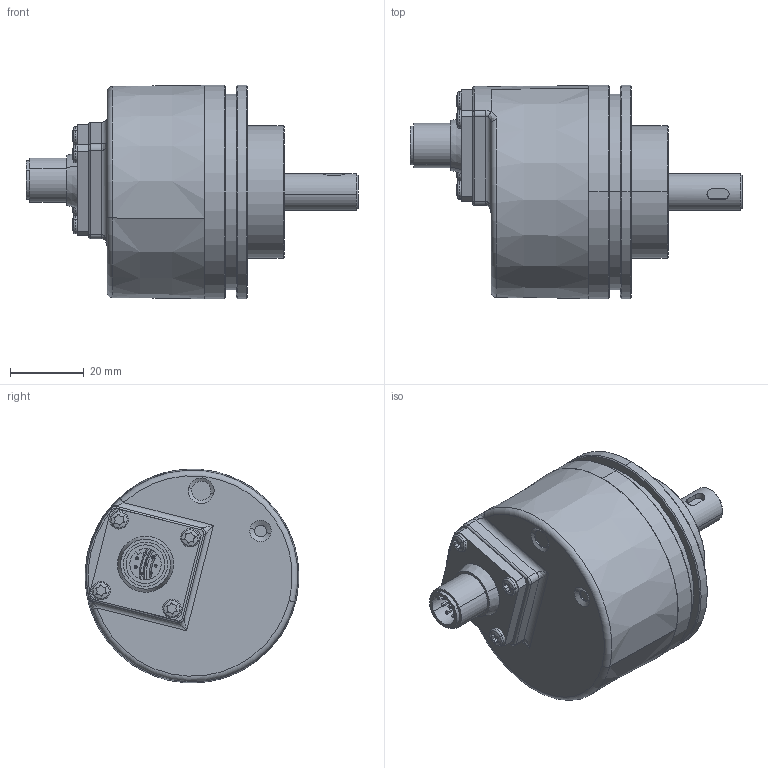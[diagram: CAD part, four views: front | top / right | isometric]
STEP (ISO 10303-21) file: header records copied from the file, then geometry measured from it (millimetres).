
FILE_DESCRIPTION (( 'STEP AP214' ), '1' );
FILE_NAME ('5814SIL.1AX5.XXXX.STEP', '2010-07-22T06:43:07', ( 'admin' ), ( 'Fritz Kübler GmbH' ), 'SwSTEP 2.0', 'SolidWorks 2009', '' );
FILE_SCHEMA (( 'AUTOMOTIVE_DESIGN' ));
Length unit declared in the file: millimetre
Products named in the file (1): 5814SIL.1AX5.XXXX
Bounding box: 90 x 58 x 58 mm (x, y, z)
Surface area: 19140 mm2 (no closed solid volume)
Topology: 0 solids, 17 shells, 246 faces, 631 edges, 395 vertices
Faces by surface type: plane 84, cylinder 74, cone 34, torus 24, sphere 24, bspline 6
Entity records: 10993 total; most frequent: CARTESIAN_POINT 2318, DIRECTION 1389, ORIENTED_EDGE 1100, EDGE_CURVE 597, AXIS2_PLACEMENT_3D 569, VERTEX_POINT 379, CIRCLE 328, EDGE_LOOP 278
